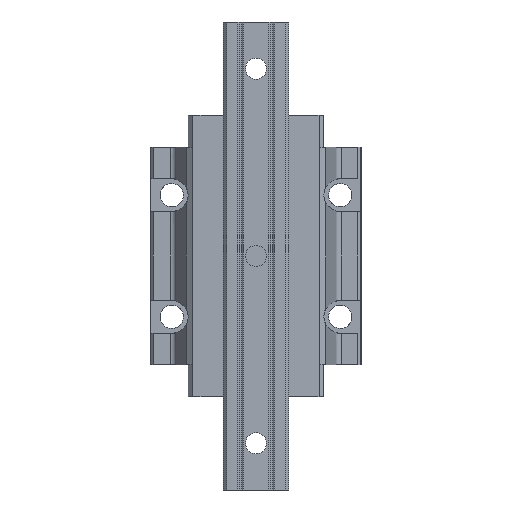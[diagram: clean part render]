
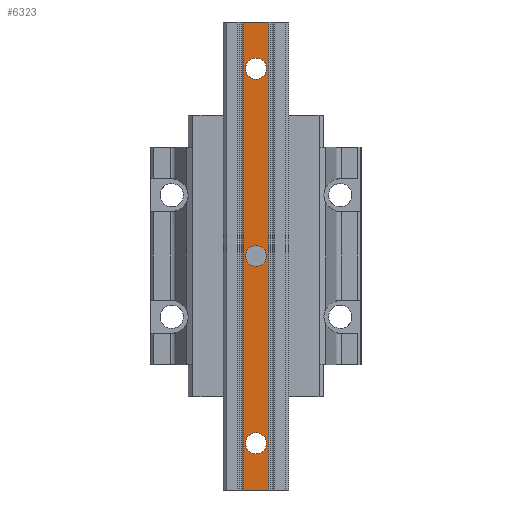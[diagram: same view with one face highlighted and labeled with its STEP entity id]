
A CAD part, front view. The second image highlights one B-rep face of the part: STEP entity #6323.
In plain terms, the highlighted planar face has unit normal (0, -1, 0).
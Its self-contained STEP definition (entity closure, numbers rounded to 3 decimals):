
#242 = CARTESIAN_POINT ( 'NONE',  ( 0., -26., 0. ) ) ;
#455 = PLANE ( 'NONE',  #8967 ) ;
#592 = CARTESIAN_POINT ( 'NONE',  ( 0., -26., -80. ) ) ;
#656 = EDGE_CURVE ( 'NONE', #1110, #8890, #8395, .T. ) ;
#718 = EDGE_CURVE ( 'NONE', #8169, #6215, #7034, .T. ) ;
#721 = CARTESIAN_POINT ( 'NONE',  ( 4.5, -26., -80. ) ) ;
#754 = LINE ( 'NONE', #8377, #9501 ) ;
#857 = ORIENTED_EDGE ( 'NONE', *, *, #718, .T. ) ;
#866 = CARTESIAN_POINT ( 'NONE',  ( 5.55, -26., -100. ) ) ;
#887 = VERTEX_POINT ( 'NONE', #2952 ) ;
#1110 = VERTEX_POINT ( 'NONE', #6402 ) ;
#1125 = VERTEX_POINT ( 'NONE', #10744 ) ;
#1174 = LINE ( 'NONE', #7097, #1849 ) ;
#1334 = ORIENTED_EDGE ( 'NONE', *, *, #4803, .T. ) ;
#1393 = AXIS2_PLACEMENT_3D ( 'NONE', #10115, #9911, #7591 ) ;
#1465 = EDGE_CURVE ( 'NONE', #9622, #4447, #4158, .T. ) ;
#1727 = ORIENTED_EDGE ( 'NONE', *, *, #656, .F. ) ;
#1849 = VECTOR ( 'NONE', #4415, 1000. ) ;
#1980 = DIRECTION ( 'NONE',  ( -1., 0., 0. ) ) ;
#2632 = DIRECTION ( 'NONE',  ( 1., 0., 0. ) ) ;
#2952 = CARTESIAN_POINT ( 'NONE',  ( 4.5, -26., 0. ) ) ;
#3027 = FACE_BOUND ( 'NONE', #8238, .T. ) ;
#3066 = EDGE_LOOP ( 'NONE', ( #5858, #5326 ) ) ;
#3080 = FACE_OUTER_BOUND ( 'NONE', #9610, .T. ) ;
#3182 = CIRCLE ( 'NONE', #5477, 4.5 ) ;
#3218 = ORIENTED_EDGE ( 'NONE', *, *, #1465, .T. ) ;
#3342 = EDGE_CURVE ( 'NONE', #6215, #8169, #3182, .T. ) ;
#3420 = DIRECTION ( 'NONE',  ( 0., 0., -1. ) ) ;
#3610 = VERTEX_POINT ( 'NONE', #721 ) ;
#3649 = CARTESIAN_POINT ( 'NONE',  ( 0., -26., -80. ) ) ;
#3667 = CIRCLE ( 'NONE', #5433, 4.5 ) ;
#3707 = CARTESIAN_POINT ( 'NONE',  ( 4.5, -26., 80. ) ) ;
#4053 = EDGE_CURVE ( 'NONE', #1110, #9622, #754, .T. ) ;
#4158 = LINE ( 'NONE', #7522, #8766 ) ;
#4415 = DIRECTION ( 'NONE',  ( 0., 0., 1. ) ) ;
#4447 = VERTEX_POINT ( 'NONE', #866 ) ;
#4803 = EDGE_CURVE ( 'NONE', #4447, #8890, #1174, .T. ) ;
#4812 = DIRECTION ( 'NONE',  ( 0., 1., 0. ) ) ;
#5326 = ORIENTED_EDGE ( 'NONE', *, *, #10254, .T. ) ;
#5433 = AXIS2_PLACEMENT_3D ( 'NONE', #10695, #4812, #6463 ) ;
#5477 = AXIS2_PLACEMENT_3D ( 'NONE', #6451, #5689, #10585 ) ;
#5568 = FACE_BOUND ( 'NONE', #3066, .T. ) ;
#5689 = DIRECTION ( 'NONE',  ( 0., 1., 0. ) ) ;
#5858 = ORIENTED_EDGE ( 'NONE', *, *, #9003, .T. ) ;
#5932 = ORIENTED_EDGE ( 'NONE', *, *, #9030, .T. ) ;
#6013 = VERTEX_POINT ( 'NONE', #6285 ) ;
#6215 = VERTEX_POINT ( 'NONE', #7931 ) ;
#6252 = DIRECTION ( 'NONE',  ( 0., 1., 0. ) ) ;
#6285 = CARTESIAN_POINT ( 'NONE',  ( -4.5, -26., -80. ) ) ;
#6323 = ADVANCED_FACE ( 'NONE', ( #5568, #3027, #8261, #3080 ), #455, .T. ) ;
#6402 = CARTESIAN_POINT ( 'NONE',  ( -5.55, -26., 100. ) ) ;
#6411 = DIRECTION ( 'NONE',  ( 0., 1., 0. ) ) ;
#6451 = CARTESIAN_POINT ( 'NONE',  ( 0., -26., 80. ) ) ;
#6463 = DIRECTION ( 'NONE',  ( -1., 0., 0. ) ) ;
#6670 = AXIS2_PLACEMENT_3D ( 'NONE', #592, #6411, #9809 ) ;
#6804 = CARTESIAN_POINT ( 'NONE',  ( -5.55, -26., -100. ) ) ;
#6995 = DIRECTION ( 'NONE',  ( 0., 1., 0. ) ) ;
#7034 = CIRCLE ( 'NONE', #1393, 4.5 ) ;
#7085 = DIRECTION ( 'NONE',  ( -1., 0., 0. ) ) ;
#7097 = CARTESIAN_POINT ( 'NONE',  ( 5.55, -26., -100. ) ) ;
#7192 = CARTESIAN_POINT ( 'NONE',  ( 5.55, -26., 100. ) ) ;
#7196 = CIRCLE ( 'NONE', #6670, 4.5 ) ;
#7467 = DIRECTION ( 'NONE',  ( 1., 0., 0. ) ) ;
#7522 = CARTESIAN_POINT ( 'NONE',  ( 0., -26., -100. ) ) ;
#7591 = DIRECTION ( 'NONE',  ( -1., 0., 0. ) ) ;
#7642 = ORIENTED_EDGE ( 'NONE', *, *, #3342, .T. ) ;
#7915 = AXIS2_PLACEMENT_3D ( 'NONE', #3649, #6252, #7085 ) ;
#7931 = CARTESIAN_POINT ( 'NONE',  ( -4.5, -26., 80. ) ) ;
#8074 = CIRCLE ( 'NONE', #8248, 4.5 ) ;
#8101 = CARTESIAN_POINT ( 'NONE',  ( -5.55, -26., -100. ) ) ;
#8169 = VERTEX_POINT ( 'NONE', #3707 ) ;
#8222 = ORIENTED_EDGE ( 'NONE', *, *, #4053, .T. ) ;
#8238 = EDGE_LOOP ( 'NONE', ( #7642, #857 ) ) ;
#8248 = AXIS2_PLACEMENT_3D ( 'NONE', #242, #6995, #1980 ) ;
#8261 = FACE_BOUND ( 'NONE', #9960, .T. ) ;
#8377 = CARTESIAN_POINT ( 'NONE',  ( -5.55, -26., -100. ) ) ;
#8395 = LINE ( 'NONE', #9122, #9831 ) ;
#8766 = VECTOR ( 'NONE', #2632, 1000. ) ;
#8797 = CIRCLE ( 'NONE', #7915, 4.5 ) ;
#8807 = EDGE_CURVE ( 'NONE', #6013, #3610, #8797, .T. ) ;
#8890 = VERTEX_POINT ( 'NONE', #7192 ) ;
#8967 = AXIS2_PLACEMENT_3D ( 'NONE', #8101, #10679, #10784 ) ;
#9003 = EDGE_CURVE ( 'NONE', #1125, #887, #3667, .T. ) ;
#9030 = EDGE_CURVE ( 'NONE', #3610, #6013, #7196, .T. ) ;
#9122 = CARTESIAN_POINT ( 'NONE',  ( 0., -26., 100. ) ) ;
#9501 = VECTOR ( 'NONE', #3420, 1000. ) ;
#9610 = EDGE_LOOP ( 'NONE', ( #1334, #1727, #8222, #3218 ) ) ;
#9622 = VERTEX_POINT ( 'NONE', #6804 ) ;
#9809 = DIRECTION ( 'NONE',  ( -1., 0., 0. ) ) ;
#9831 = VECTOR ( 'NONE', #7467, 1000. ) ;
#9911 = DIRECTION ( 'NONE',  ( 0., 1., 0. ) ) ;
#9960 = EDGE_LOOP ( 'NONE', ( #10519, #5932 ) ) ;
#10115 = CARTESIAN_POINT ( 'NONE',  ( 0., -26., 80. ) ) ;
#10254 = EDGE_CURVE ( 'NONE', #887, #1125, #8074, .T. ) ;
#10519 = ORIENTED_EDGE ( 'NONE', *, *, #8807, .T. ) ;
#10585 = DIRECTION ( 'NONE',  ( -1., 0., 0. ) ) ;
#10679 = DIRECTION ( 'NONE',  ( 0., -1., 0. ) ) ;
#10695 = CARTESIAN_POINT ( 'NONE',  ( 0., -26., 0. ) ) ;
#10744 = CARTESIAN_POINT ( 'NONE',  ( -4.5, -26., 0. ) ) ;
#10784 = DIRECTION ( 'NONE',  ( 0., 0., -1. ) ) ;
